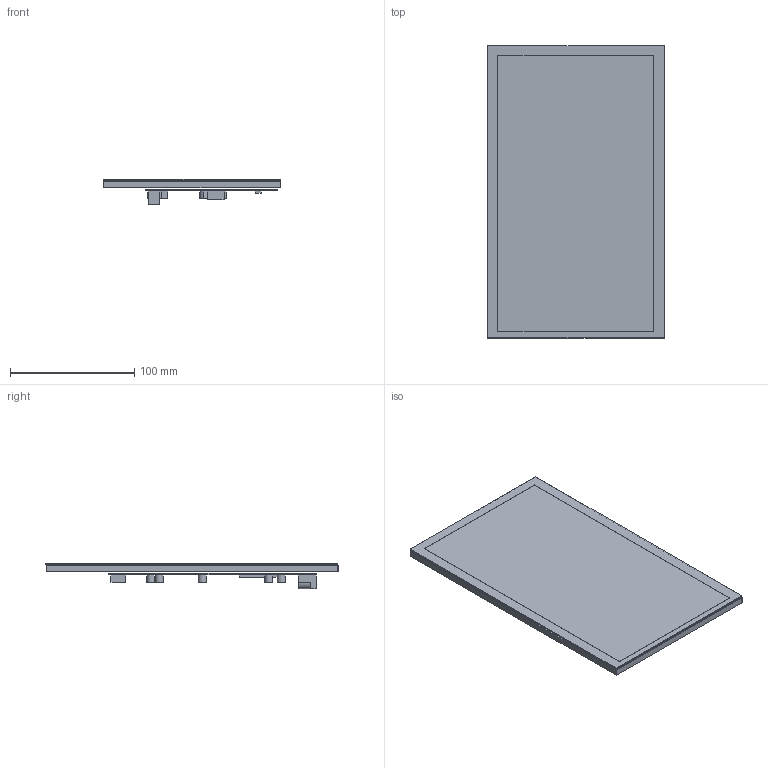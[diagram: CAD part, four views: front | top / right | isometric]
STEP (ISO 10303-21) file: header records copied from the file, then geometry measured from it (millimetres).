
FILE_DESCRIPTION((''),'2;1');
FILE_NAME('HDW101-001L','2021-12-22T',('Administrator'),(''),'PRO/ENGINEER BY PARAMETRIC TECHNOLOGY CORPORATION, 2011310','PRO/ENGINEER BY PARAMETRIC TECHNOLOGY CORPORATION, 2011310','');
FILE_SCHEMA(('CONFIG_CONTROL_DESIGN','SHAPE_APPEARANCE_LAYERS_GROUPS'));
Length unit declared in the file: millimetre
Products named in the file (1): HDW101-001L
Bounding box: 143.07 x 235.3 x 20.38 mm (x, y, z)
Volume: 248842 mm3; surface area: 169295.8 mm2
Topology: 2 solids, 2 shells, 107 faces, 266 edges, 177 vertices
Faces by surface type: plane 84, cylinder 23
Entity records: 3590 total; most frequent: CARTESIAN_POINT 550, ORIENTED_EDGE 532, DIRECTION 527, EDGE_CURVE 266, VECTOR 219, LINE 219, VERTEX_POINT 177, AXIS2_PLACEMENT_3D 154
